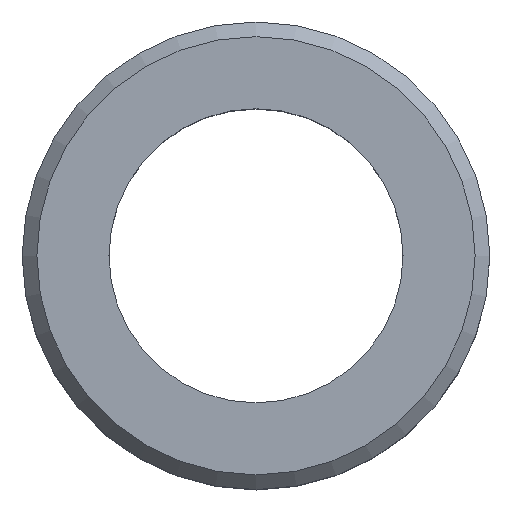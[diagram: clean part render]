
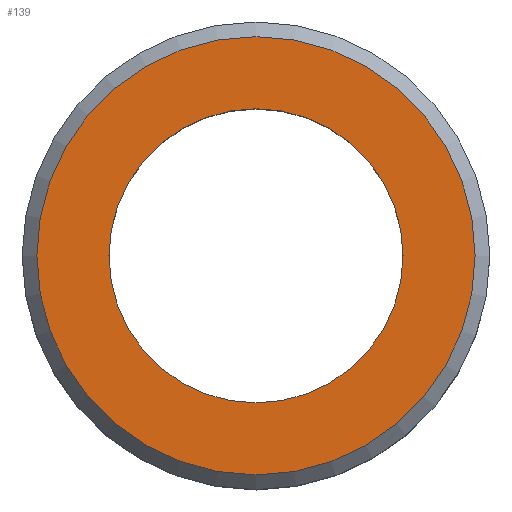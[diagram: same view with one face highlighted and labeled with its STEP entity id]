
A CAD part, top view. The second image highlights one B-rep face of the part: STEP entity #139.
In plain terms, the highlighted planar face has unit normal (0, 0, 1).
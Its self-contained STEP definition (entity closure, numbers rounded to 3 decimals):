
#16=FACE_BOUND('',#43,.T.);
#20=PLANE('',#171);
#31=FACE_OUTER_BOUND('',#42,.T.);
#42=EDGE_LOOP('',(#119));
#43=EDGE_LOOP('',(#120));
#61=CIRCLE('',#158,5.);
#66=CIRCLE('',#167,7.45);
#71=VERTEX_POINT('',#227);
#76=VERTEX_POINT('',#244);
#81=EDGE_CURVE('',#71,#71,#61,.T.);
#89=EDGE_CURVE('',#76,#76,#66,.T.);
#119=ORIENTED_EDGE('',*,*,#89,.F.);
#120=ORIENTED_EDGE('',*,*,#81,.T.);
#139=ADVANCED_FACE('',(#31,#16),#20,.T.);
#158=AXIS2_PLACEMENT_3D('',#228,#181,#182);
#167=AXIS2_PLACEMENT_3D('',#245,#202,#203);
#171=AXIS2_PLACEMENT_3D('',#253,#212,#213);
#181=DIRECTION('center_axis',(0.,0.,-1.));
#182=DIRECTION('ref_axis',(-1.,0.,0.));
#202=DIRECTION('center_axis',(0.,0.,-1.));
#203=DIRECTION('ref_axis',(1.,0.,0.));
#212=DIRECTION('center_axis',(0.,0.,1.));
#213=DIRECTION('ref_axis',(1.,0.,0.));
#227=CARTESIAN_POINT('',(5.,0.,7.5));
#228=CARTESIAN_POINT('Origin',(0.,0.,7.5));
#244=CARTESIAN_POINT('',(-7.45,0.,7.5));
#245=CARTESIAN_POINT('Origin',(0.,0.,7.5));
#253=CARTESIAN_POINT('Origin',(0.,0.,7.5));
